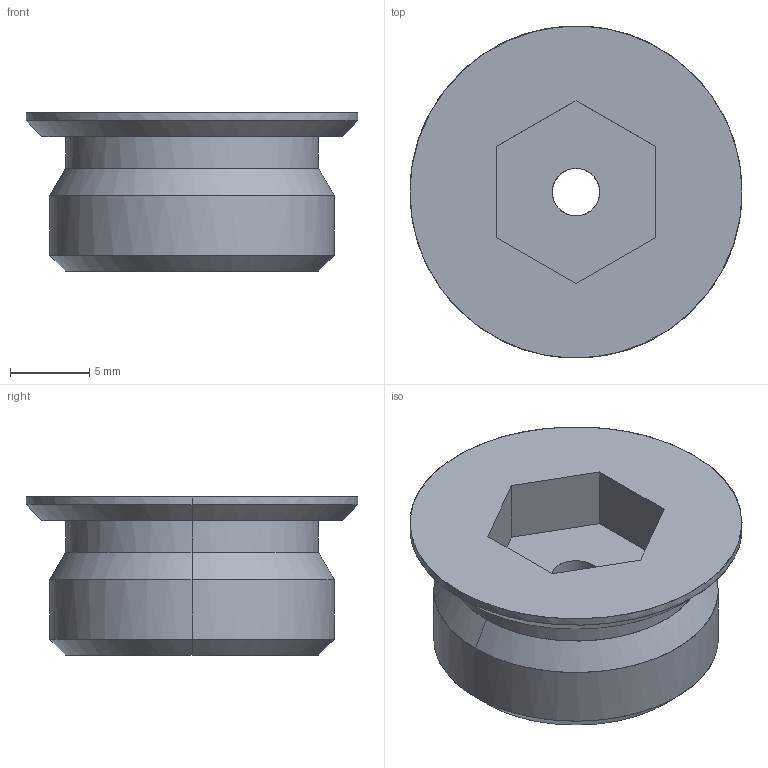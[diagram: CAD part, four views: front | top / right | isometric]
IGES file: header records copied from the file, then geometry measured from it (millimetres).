
Global section: file name: E:\UnigraphicsGraphicData\MISUMI_PRESS-PARTS\IGES\3d_mswzsh18-10_00502_r00.igs; native system: NX V5.0; preprocessor: UGS NX IGES V5.0; author: MISUMI; date: 20110105.161531; units: millimetre
Bounding box: 21 x 21 x 10 mm (x, y, z)
Surface area: 1430.7 mm2 (no closed solid volume)
Topology: 0 solids, 0 shells, 24 faces, 140 edges, 140 vertices
Faces by surface type: bspline 24
